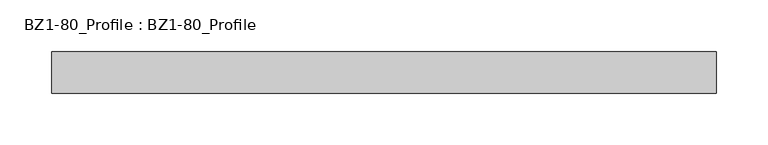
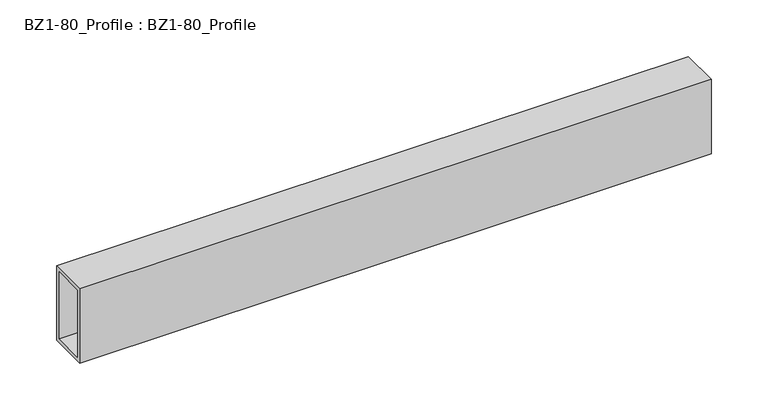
"""IFC4 building model written with IfcOpenShell, lengths in millimetres: beam geometry, BZ1-80_Profile : BZ1-80_Profile."""

from ifc_helpers import new_model, si_unit, frame, origin, place, context, project, spatial, polyline, outline, extrude, source, transform, mapped, element, save


def bz1_80_profile_bz1_80_profile_443fb40e(model_context):
    return source(origin(), model_context, "Body", "SweptSolid", [
        extrude(outline(polyline([(-20.0, 40.0), (20.0, 40.0), (20.0, -40.0), (-20.0, -40.0), (-20.0, 40.0)]), holes=[polyline([(-16.0, 36.0), (-16.0, -36.0), (16.0, -36.0), (16.0, 36.0), (-16.0, 36.0)])]), frame((-321.0, 0.0, 0.0), z_axis=(1.0, 0.0, 0.0), x_axis=(0.0, 1.0, 0.0)), (0.0, 0.0, 1.0), 642.0),
    ])


if __name__ == "__main__":
    model = new_model("IFC4")
    model_context = context("Model", 3, world=origin())
    ifc_project = project(units=[si_unit("LENGTHUNIT", "METRE", prefix="MILLI")], contexts=[model_context])
    site = spatial("IfcSite", under=ifc_project)
    building = spatial("IfcBuilding", under=site)
    placement = place(None, origin())
    bz1_80_profile_bz1_80_profile_shape = bz1_80_profile_bz1_80_profile_443fb40e(model_context)
    element("IfcBeam", 1, ObjectType="BZ1-80_Profile : BZ1-80_Profile", at=placement, inside=building, context=model_context, shape_type="MappedRepresentation", body=[
        mapped(bz1_80_profile_bz1_80_profile_shape, transform((0.0, 0.0, 0.0), x_axis=(1.0, 0.0, 0.0), y_axis=(0.0, 1.0, 0.0), z_axis=(0.0, 0.0, 1.0))),
    ])
    save(model, "model.ifc")
